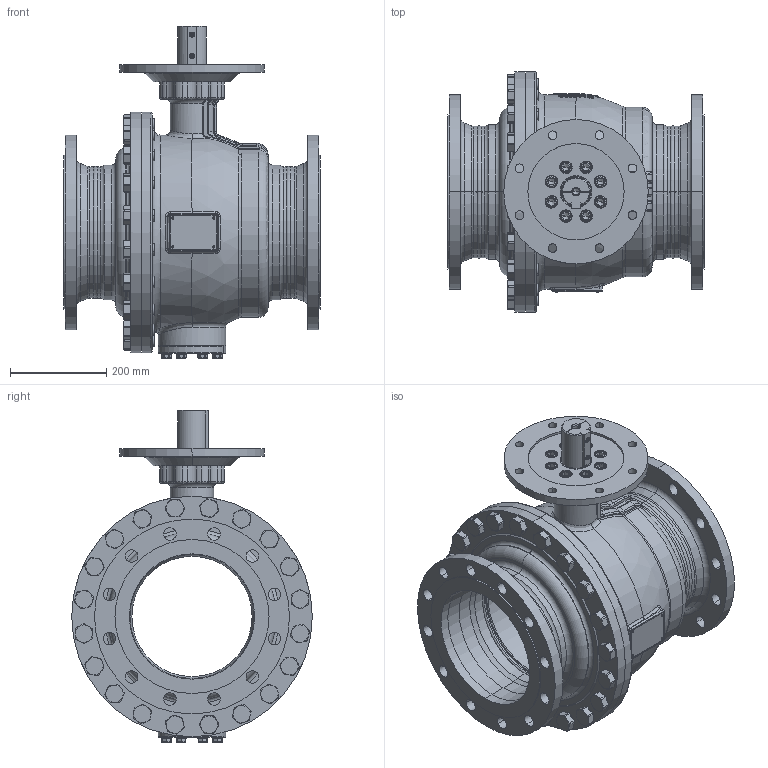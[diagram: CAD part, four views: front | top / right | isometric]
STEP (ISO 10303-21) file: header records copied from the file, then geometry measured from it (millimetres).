
FILE_DESCRIPTION((''),'2;1');
FILE_NAME('KHI-F_250_PN016-F25-P_SW0001','2026-02-05T14:21:03',('fischerkl'),('KLINGER'),'CREO PARAMETRIC BY PTC INC, 2023014','CREO PARAMETRIC BY PTC INC, 2023014','');
FILE_SCHEMA(('CONFIG_CONTROL_DESIGN'));
Products named in the file (1): KHI-F_250_PN016-F25-P_SW0001
Bounding box: 533 x 500 x 689.8 mm (x, y, z)
Volume: 21712368.3 mm3; surface area: 3395916.2 mm2
Topology: 1 solids, 4 shells, 3284 faces, 8297 edges, 5168 vertices
Faces by surface type: plane 1684, cylinder 770, cone 389, torus 314, bspline 97, sphere 30
Entity records: 134236 total; most frequent: CARTESIAN_POINT 56227, ORIENTED_EDGE 16534, DIRECTION 16036, EDGE_CURVE 8267, AXIS2_PLACEMENT_3D 6060, VERTEX_POINT 5168, VECTOR 3916, LINE 3916
